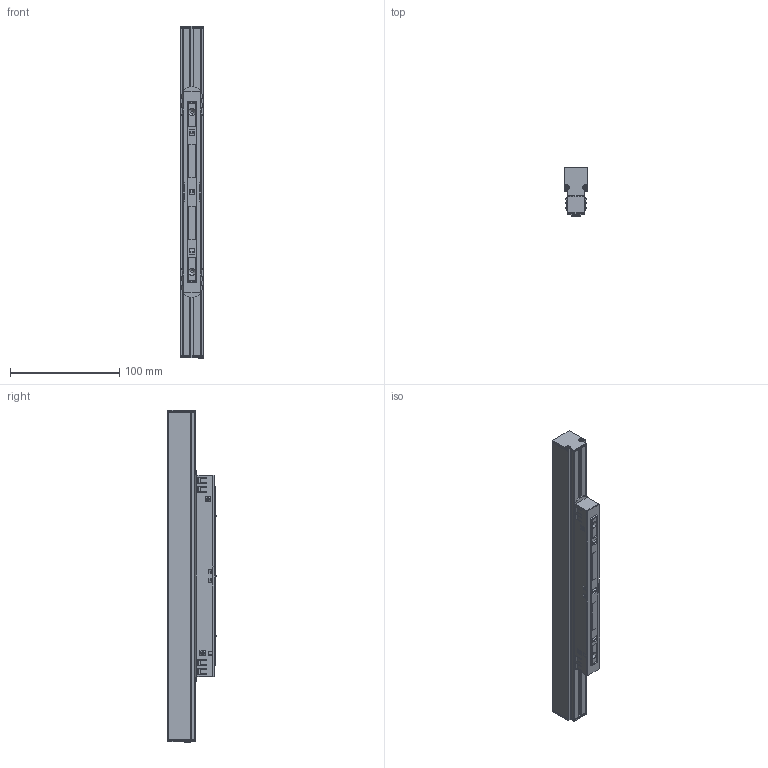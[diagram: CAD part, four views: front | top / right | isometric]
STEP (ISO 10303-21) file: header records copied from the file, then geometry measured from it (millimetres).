
FILE_DESCRIPTION (( 'STEP AP203' ), '1' );
FILE_NAME ('410098.STEP', '2025-04-02T02:23:19', ( '微软用户' ), ( '微软中国' ), 'SwSTEP 2.0', 'SolidWorks 2020', '' );
FILE_SCHEMA (( 'CONFIG_CONTROL_DESIGN' ));
Length unit declared in the file: millimetre
Products named in the file (19): 臏價啣-410054; MANIFOLD_SOLID_BREP_1147; 10-08-G1_1; 滓嫖黑芛ㄗ湍怢論ㄘ; MANIFOLD_SOLID_BREP_1148; 10-10-gk-2; PET毀嫖祧-300; MANIFOLD_SOLID_BREP_1149; 410098; 滓嫖醱欶-300; MANIFOLD_SOLID_BREP_1150; ｳﾁﾍｷﾊｮﾗﾖﾗﾔｹ･ﾂﾝﾋｿ M2.5X8; MANIFOLD_SOLID_BREP_1155; 滓嫖腑极-300ㄗ湍怢論ㄘ; MANIFOLD_SOLID_BREP_1145; MANIFOLD_SOLID_BREP_1156; 黑芛掖蝶ㄗ湍怢論ㄘ; MANIFOLD_SOLID_BREP_1146; 10-07-WJ1
Assembly tree (24 placements, depth 3):
  410098
    滓嫖腑极-300ㄗ湍怢論ㄘ
    黑芛掖蝶ㄗ湍怢論ㄘ  x2
    臏價啣-410054
    滓嫖黑芛ㄗ湍怢論ㄘ  x2
    PET毀嫖祧-300  x2
    滓嫖醱欶-300
    ｳﾁﾍｷﾊｮﾗﾖﾗﾔｹ･ﾂﾝﾋｿ M2.5X8  x4
    10-10-gk-2
      MANIFOLD_SOLID_BREP_1145
      MANIFOLD_SOLID_BREP_1146
      MANIFOLD_SOLID_BREP_1147
      MANIFOLD_SOLID_BREP_1148
      MANIFOLD_SOLID_BREP_1149
      MANIFOLD_SOLID_BREP_1150
      MANIFOLD_SOLID_BREP_1155
      MANIFOLD_SOLID_BREP_1156
      10-07-WJ1
      10-08-G1_1
Bounding box: 22 x 44.4 x 304.4 mm (x, y, z)
Volume: 85376 mm3; surface area: 132344.3 mm2
Topology: 27 solids, 27 shells, 2153 faces, 5771 edges, 3786 vertices
Faces by surface type: plane 1545, cylinder 427, bspline 108, cone 73
Entity records: 76652 total; most frequent: CARTESIAN_POINT 24718, ORIENTED_EDGE 10938, DIRECTION 9129, EDGE_CURVE 5469, VECTOR 4063, LINE 4063, VERTEX_POINT 3599, AXIS2_PLACEMENT_3D 2533
